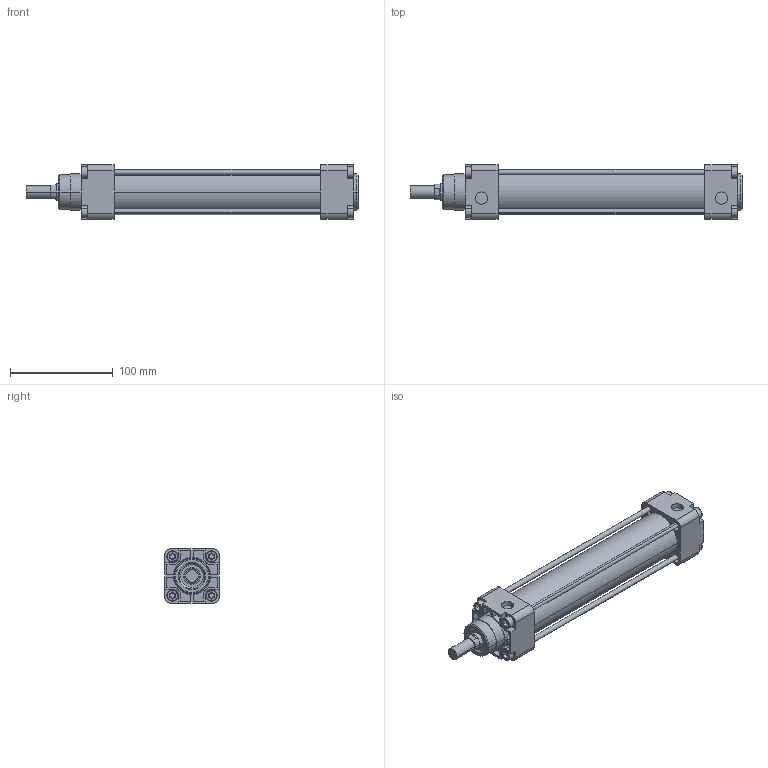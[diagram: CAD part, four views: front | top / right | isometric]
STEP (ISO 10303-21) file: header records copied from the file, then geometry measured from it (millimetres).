
FILE_DESCRIPTION(('CATIA V5 STEP Exchange'),'2;1');
FILE_NAME('D:\stp file for catalog\PNC\40\PNC 40-16-160.stp','2015-05-25T08:23:25+00:00',('none'),('none'),'Version 5-6 Release 2012','CATIA V5 STEP AP203','none');
FILE_SCHEMA(('CONFIG_CONTROL_DESIGN'));
Length unit declared in the file: millimetre
Products named in the file (1): PNC 40-16-160-00
Assembly tree (2 placements, depth 2):
  PNC 40-16-160-00
    #58
    #14775
Bounding box: 322.5 x 53 x 53 mm (x, y, z)
Volume: 329908.6 mm3; surface area: 132886.3 mm2
Topology: 2 solids, 2 shells, 562 faces, 1417 edges, 920 vertices
Faces by surface type: plane 352, cylinder 158, torus 26, cone 18, extrusion 8
Entity records: 15204 total; most frequent: CARTESIAN_POINT 2889, ORIENTED_EDGE 2834, DIRECTION 1905, EDGE_CURVE 1417, VERTEX_POINT 920, VECTOR 877, LINE 869, AXIS2_PLACEMENT_3D 764
